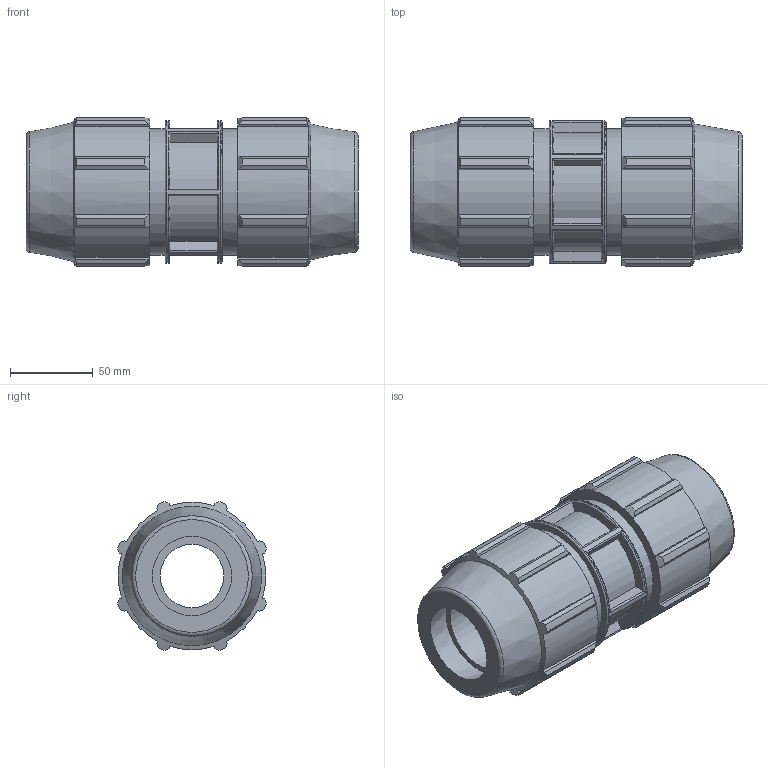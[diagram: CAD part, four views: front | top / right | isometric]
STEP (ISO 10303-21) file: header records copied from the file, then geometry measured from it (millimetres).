
FILE_DESCRIPTION(/* description */ ('PLASSON COUPLER 1 1/2'''' - 50mm'),/* implementation_level */ '2;1');
FILE_NAME(/* name */ 'C:\Dropbox\KIMPROJECTS-Inventor 2019\99-16-3568-Processing Inch\ASTM Compression 2021\0701M\0701M015.ipt.stp',/* time_stamp */ '2021-08-26T12:29:20+03:00',/* author */ ('KIM'),/* organization */ (''),/* preprocessor_version */ 'ST-DEVELOPER v17.2',/* originating_system */ 'Autodesk Inventor 2019',/* authorisation */ '');
FILE_SCHEMA (('AUTOMOTIVE_DESIGN { 1 0 10303 214 3 1 1 }'));
Length unit declared in the file: inch
Products named in the file (1): 0701M015
Bounding box: 200.91 x 90.34 x 90.34 mm (x, y, z)
Volume: 711047.8 mm3; surface area: 105761.3 mm2
Topology: 1 solids, 1 shells, 193 faces, 552 edges, 375 vertices
Faces by surface type: plane 98, cylinder 56, cone 23, torus 16
Full cylindrical faces by diameter (mm): 38.48 x1, 48.1 x1, 50 x1, 76.81 x2, 86.411 x1
Entity records: 6840 total; most frequent: CARTESIAN_POINT 1633, ORIENTED_EDGE 1104, DIRECTION 1003, EDGE_CURVE 552, VERTEX_POINT 375, AXIS2_PLACEMENT_3D 369, LINE 265, VECTOR 265
